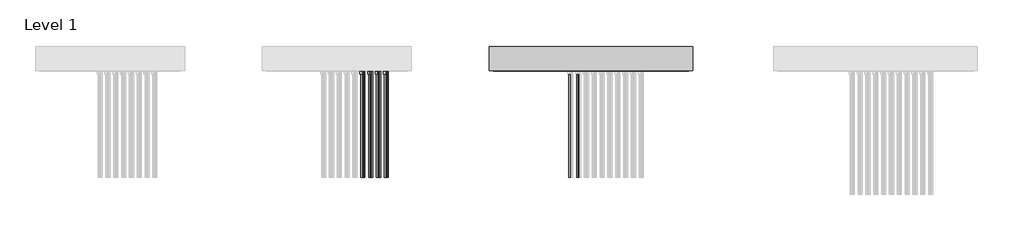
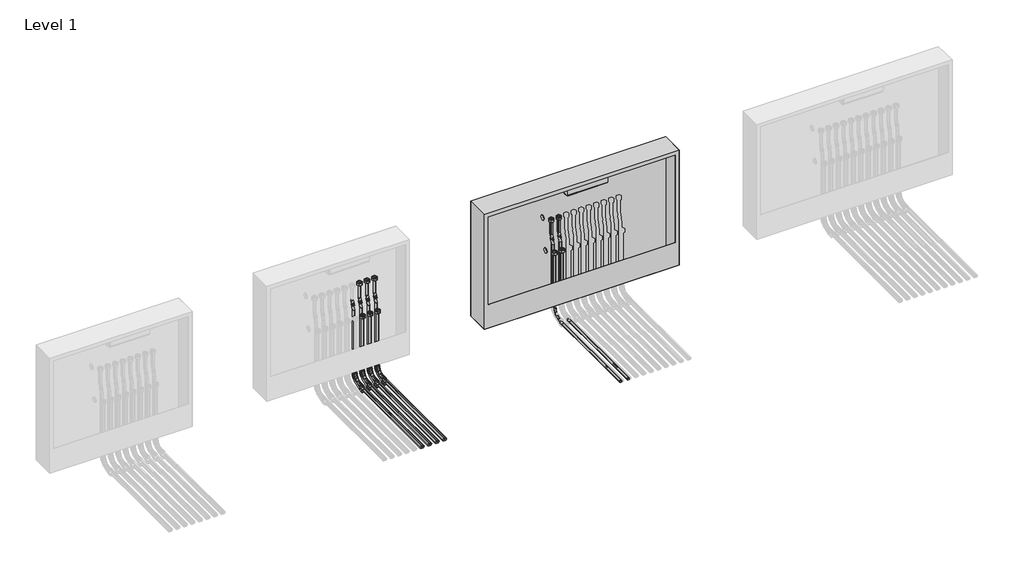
# One storey, part 9 of 15: 39 pipe fittings, 33 pipe segments, 1 proxy, 1 valve.
"""IFC4 building model written with IfcOpenShell, lengths in millimetres."""

from ifc_helpers import new_model, si_unit, point, frame, frame_2d, origin, place, context, project, spatial, circle_curve, trimmed, segment, composite_curve, outline, extrude, transform, mapped, element, save
from components import mechanical_equipment_387b3563, pipe_fitting_b05a7e06, pipe_fitting_27357a6d, pipe_fitting_daada113, pipe_fitting_3e503640, valve_75f531ea

model = new_model("IFC4")

# Units and contexts
model_context = context("Model", 3, world=origin())
ifc_project = project(units=[si_unit("LENGTHUNIT", "METRE", prefix="MILLI")], contexts=[model_context])

# Site, building, storey
site = spatial("IfcSite", under=ifc_project)
building = spatial("IfcBuilding", under=site)
storey = spatial("IfcBuildingStorey", under=building, Name="Level 1", Elevation=0.0)

# Proxy
placement = place(None, origin())
mechanical_equipment_shape = mechanical_equipment_387b3563(model_context)
element("IfcBuildingElementProxy", 1, Name="USYSTEMS_Контроллер UH-6 230В1 : Контроллер UH-6 230В 2", ObjectType="USYSTEMS_Контроллер UH-6 230В1 : Контроллер UH-6 230В 2", at=placement, inside=storey, context=model_context, shape_type="MappedRepresentation", body=[
    mapped(mechanical_equipment_shape, transform((13334.935481, 3891.4243288, 729.375), x_axis=(1.0, 0.0, 0.0), y_axis=(0.0, 1.0, 0.0), z_axis=(0.0, 0.0, 1.0))),
])

# Pipe fittings
pipe_fitting_shape = pipe_fitting_b05a7e06(model_context)
element("IfcPipeFitting", 2, ObjectType="USYSTEMS_УгловойФиксатор_Multi : Угловой фиксатор", at=placement, inside=storey, context=model_context, shape_type="MappedRepresentation", body=[
    mapped(pipe_fitting_shape, transform((11777.966047, 3819.5919288, -114.3211479), x_axis=(0.0, 0.0, -1.0), y_axis=(0.0, -1.0, 0.0), z_axis=(-1.0, 0.0, 0.0))),
])
element("IfcPipeFitting", 3, ObjectType="USYSTEMS_УгловойФиксатор_Multi : Угловой фиксатор", at=placement, inside=storey, context=model_context, shape_type="MappedRepresentation", body=[
    mapped(pipe_fitting_shape, transform((11788.0518035, 3855.5919362, -114.3211479), x_axis=(0.0, 0.0, -1.0), y_axis=(0.0, -1.0, 0.0), z_axis=(-1.0, 0.0, 0.0))),
])
element("IfcPipeFitting", 4, ObjectType="USYSTEMS_УгловойФиксатор_Multi : Угловой фиксатор", at=placement, inside=storey, context=model_context, shape_type="MappedRepresentation", body=[
    mapped(pipe_fitting_shape, transform((11827.966047, 3819.5918655, -114.3211479), x_axis=(0.0, 0.0, -1.0), y_axis=(0.0, -1.0, 0.0), z_axis=(-1.0, 0.0, 0.0))),
])
element("IfcPipeFitting", 5, ObjectType="USYSTEMS_УгловойФиксатор_Multi : Угловой фиксатор", at=placement, inside=storey, context=model_context, shape_type="MappedRepresentation", body=[
    mapped(pipe_fitting_shape, transform((11838.0518035, 3855.5915681, -114.3211479), x_axis=(0.0, 0.0, -1.0), y_axis=(0.0, -1.0, 0.0), z_axis=(-1.0, 0.0, 0.0))),
])
element("IfcPipeFitting", 6, ObjectType="USYSTEMS_УгловойФиксатор_Multi : Угловой фиксатор", at=placement, inside=storey, context=model_context, shape_type="MappedRepresentation", body=[
    mapped(pipe_fitting_shape, transform((11877.966047, 3819.5915681, -114.3211479), x_axis=(0.0, 0.0, -1.0), y_axis=(0.0, -1.0, 0.0), z_axis=(-1.0, 0.0, 0.0))),
])
element("IfcPipeFitting", 7, ObjectType="USYSTEMS_УгловойФиксатор_Multi : Угловой фиксатор", at=placement, inside=storey, context=model_context, shape_type="MappedRepresentation", body=[
    mapped(pipe_fitting_shape, transform((11888.0518035, 3855.5915681, -114.3211479), x_axis=(0.0, 0.0, -1.0), y_axis=(0.0, -1.0, 0.0), z_axis=(-1.0, 0.0, 0.0))),
])
element("IfcPipeFitting", 8, ObjectType="USYSTEMS_УгловойФиксатор_Multi : Угловой фиксатор", at=placement, inside=storey, context=model_context, shape_type="MappedRepresentation", body=[
    mapped(pipe_fitting_shape, transform((11927.966047, 3819.5915681, -114.3211479), x_axis=(0.0, 0.0, -1.0), y_axis=(0.0, -1.0, 0.0), z_axis=(-1.0, 0.0, 0.0))),
])
element("IfcPipeFitting", 9, ObjectType="USYSTEMS_УгловойФиксатор_Multi : Угловой фиксатор", at=placement, inside=storey, context=model_context, shape_type="MappedRepresentation", body=[
    mapped(pipe_fitting_shape, transform((11938.0518035, 3855.5915681, -114.3211479), x_axis=(0.0, 0.0, -1.0), y_axis=(0.0, -1.0, 0.0), z_axis=(-1.0, 0.0, 0.0))),
])
pipe_fitting_2_shape = pipe_fitting_27357a6d(model_context)
element("IfcPipeFitting", 10, ObjectType="USYSTEMS_Штуцер с внутренней резьбой_FlexX_PEX : 16x2,0 x 3/4\" ВР Евроконус", at=placement, inside=storey, context=model_context, shape_type="MappedRepresentation", body=[
    mapped(pipe_fitting_2_shape, transform((11827.966047, 3819.5920282, 328.3084133), x_axis=(0.0, 0.0, 1.0), y_axis=(0.0, 1.0, 0.0), z_axis=(-1.0, 0.0, 0.0))),
])
element("IfcPipeFitting", 11, ObjectType="USYSTEMS_Штуцер с внутренней резьбой_FlexX_PEX : 16x2,0 x 3/4\" ВР Евроконус", at=placement, inside=storey, context=model_context, shape_type="MappedRepresentation", body=[
    mapped(pipe_fitting_2_shape, transform((11827.966047, 3855.5920282, 538.3084133), x_axis=(0.0, 0.0, 1.0), y_axis=(0.0, 1.0, 0.0), z_axis=(-1.0, 0.0, 0.0))),
])
element("IfcPipeFitting", 12, ObjectType="USYSTEMS_Штуцер с внутренней резьбой_FlexX_PEX : 16x2,0 x 3/4\" ВР Евроконус", at=placement, inside=storey, context=model_context, shape_type="MappedRepresentation", body=[
    mapped(pipe_fitting_2_shape, transform((11877.966047, 3819.5920282, 328.3084133), x_axis=(0.0, 0.0, 1.0), y_axis=(0.0, 1.0, 0.0), z_axis=(-1.0, 0.0, 0.0))),
])
element("IfcPipeFitting", 13, ObjectType="USYSTEMS_Штуцер с внутренней резьбой_FlexX_PEX : 16x2,0 x 3/4\" ВР Евроконус", at=placement, inside=storey, context=model_context, shape_type="MappedRepresentation", body=[
    mapped(pipe_fitting_2_shape, transform((11877.966047, 3855.5920282, 538.3084133), x_axis=(0.0, 0.0, 1.0), y_axis=(0.0, 1.0, 0.0), z_axis=(-1.0, 0.0, 0.0))),
])
element("IfcPipeFitting", 14, ObjectType="USYSTEMS_Штуцер с внутренней резьбой_FlexX_PEX : 16x2,0 x 3/4\" ВР Евроконус", at=placement, inside=storey, context=model_context, shape_type="MappedRepresentation", body=[
    mapped(pipe_fitting_2_shape, transform((11927.966047, 3819.5920282, 328.3084133), x_axis=(0.0, 0.0, 1.0), y_axis=(0.0, 1.0, 0.0), z_axis=(-1.0, 0.0, 0.0))),
])
element("IfcPipeFitting", 15, ObjectType="USYSTEMS_Штуцер с внутренней резьбой_FlexX_PEX : 16x2,0 x 3/4\" ВР Евроконус", at=placement, inside=storey, context=model_context, shape_type="MappedRepresentation", body=[
    mapped(pipe_fitting_2_shape, transform((11927.966047, 3855.5920282, 538.3084133), x_axis=(0.0, 0.0, 1.0), y_axis=(0.0, 1.0, 0.0), z_axis=(-1.0, 0.0, 0.0))),
])
element("IfcPipeFitting", 16, ObjectType="USYSTEMS_Штуцер с внутренней резьбой_FlexX_PEX : 16x2,0 x 3/4\" ВР Евроконус", at=placement, inside=storey, context=model_context, shape_type="MappedRepresentation", body=[
    mapped(pipe_fitting_2_shape, transform((13156.541018, 3855.4872889, 538.3084133), x_axis=(0.0, 0.0, 1.0), y_axis=(0.0, 1.0, 0.0), z_axis=(-1.0, 0.0, 0.0))),
])
element("IfcPipeFitting", 17, ObjectType="USYSTEMS_Штуцер с внутренней резьбой_FlexX_PEX : 16x2,0 x 3/4\" ВР Евроконус", at=placement, inside=storey, context=model_context, shape_type="MappedRepresentation", body=[
    mapped(pipe_fitting_2_shape, transform((13156.541018, 3819.4872889, 328.3084133), x_axis=(0.0, 0.0, 1.0), y_axis=(0.0, 1.0, 0.0), z_axis=(-1.0, 0.0, 0.0))),
])
element("IfcPipeFitting", 18, ObjectType="USYSTEMS_Штуцер с внутренней резьбой_FlexX_PEX : 16x2,0 x 3/4\" ВР Евроконус", at=placement, inside=storey, context=model_context, shape_type="MappedRepresentation", body=[
    mapped(pipe_fitting_2_shape, transform((13106.541018, 3819.4872889, 328.3084133), x_axis=(0.0, 0.0, 1.0), y_axis=(0.0, 1.0, 0.0), z_axis=(-1.0, 0.0, 0.0))),
])
element("IfcPipeFitting", 19, ObjectType="USYSTEMS_Штуцер с внутренней резьбой_FlexX_PEX : 16x2,0 x 3/4\" ВР Евроконус", at=placement, inside=storey, context=model_context, shape_type="MappedRepresentation", body=[
    mapped(pipe_fitting_2_shape, transform((13106.541018, 3855.4872889, 538.3084133), x_axis=(0.0, 0.0, 1.0), y_axis=(0.0, 1.0, 0.0), z_axis=(-1.0, 0.0, 0.0))),
])
pipe_fitting_3_shape = pipe_fitting_daada113(model_context)
element("IfcPipeFitting", 20, ObjectType="USYSTEMS_Гнутая труба_Radi Pipe : PN 6 в бухтах", at=placement, inside=storey, context=model_context, shape_type="MappedRepresentation", body=[
    mapped(pipe_fitting_3_shape, transform((11777.966047, 3855.5918733, 417.3513211), x_axis=(0.0, 0.0, -1.0), y_axis=(1.0, 0.0, 0.0), z_axis=(0.0, -1.0, 0.0))),
])
element("IfcPipeFitting", 21, ObjectType="USYSTEMS_Гнутая труба_Radi Pipe : PN 6 в бухтах", at=placement, inside=storey, context=model_context, shape_type="MappedRepresentation", body=[
    mapped(pipe_fitting_3_shape, transform((11788.0518035, 3855.5919362, 391.0770272), x_axis=(0.3583679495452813, 0.0, -0.9335804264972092), y_axis=(-0.9335804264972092, 0.0, -0.3583679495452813), z_axis=(0.0, 1.0, 0.0))),
])
element("IfcPipeFitting", 22, ObjectType="USYSTEMS_Гнутая труба_Radi Pipe : PN 6 в бухтах", at=placement, inside=storey, context=model_context, shape_type="MappedRepresentation", body=[
    mapped(pipe_fitting_3_shape, transform((11827.966047, 3855.5912535, 417.3513211), x_axis=(0.0, 0.0, -1.0), y_axis=(1.0, 0.0, 0.0), z_axis=(0.0, -1.0, 0.0))),
])
element("IfcPipeFitting", 23, ObjectType="USYSTEMS_Гнутая труба_Radi Pipe : PN 6 в бухтах", at=placement, inside=storey, context=model_context, shape_type="MappedRepresentation", body=[
    mapped(pipe_fitting_3_shape, transform((11838.0518035, 3855.5915681, 391.0770272), x_axis=(0.3583679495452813, 0.0, -0.9335804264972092), y_axis=(-0.9335804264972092, 0.0, -0.3583679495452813), z_axis=(0.0, 1.0, 0.0))),
])
element("IfcPipeFitting", 24, ObjectType="USYSTEMS_Гнутая труба_Radi Pipe : PN 6 в бухтах", at=placement, inside=storey, context=model_context, shape_type="MappedRepresentation", body=[
    mapped(pipe_fitting_3_shape, transform((11877.966047, 3855.5912535, 417.3513211), x_axis=(0.0, 0.0, -1.0), y_axis=(1.0, 0.0, 0.0), z_axis=(0.0, -1.0, 0.0))),
])
element("IfcPipeFitting", 25, ObjectType="USYSTEMS_Гнутая труба_Radi Pipe : PN 6 в бухтах", at=placement, inside=storey, context=model_context, shape_type="MappedRepresentation", body=[
    mapped(pipe_fitting_3_shape, transform((11888.0518035, 3855.5915681, 391.0770272), x_axis=(0.3583679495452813, 0.0, -0.9335804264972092), y_axis=(-0.9335804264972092, 0.0, -0.3583679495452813), z_axis=(0.0, 1.0, 0.0))),
])
element("IfcPipeFitting", 26, ObjectType="USYSTEMS_Гнутая труба_Radi Pipe : PN 6 в бухтах", at=placement, inside=storey, context=model_context, shape_type="MappedRepresentation", body=[
    mapped(pipe_fitting_3_shape, transform((11927.966047, 3855.5912535, 417.3513211), x_axis=(0.0, 0.0, -1.0), y_axis=(1.0, 0.0, 0.0), z_axis=(0.0, -1.0, 0.0))),
])
element("IfcPipeFitting", 27, ObjectType="USYSTEMS_Гнутая труба_Radi Pipe : PN 6 в бухтах", at=placement, inside=storey, context=model_context, shape_type="MappedRepresentation", body=[
    mapped(pipe_fitting_3_shape, transform((11938.0518035, 3855.5915681, 391.0770272), x_axis=(0.3583679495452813, 0.0, -0.9335804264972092), y_axis=(-0.9335804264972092, 0.0, -0.3583679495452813), z_axis=(0.0, 1.0, 0.0))),
])
pipe_fitting_4_shape = pipe_fitting_3e503640(model_context)
element("IfcPipeFitting", 28, ObjectType="USYSTEMS_Гнутая труба_Radi Pipe : PN 6 в бухтах_С фиксатором", at=placement, inside=storey, context=model_context, shape_type="MappedRepresentation", body=[
    mapped(pipe_fitting_4_shape, transform((11777.966047, 3819.5919288, -114.3211479), x_axis=(0.0, 0.0, -1.0), y_axis=(0.0, -1.0, 0.0), z_axis=(-1.0, 0.0, 0.0))),
])
element("IfcPipeFitting", 29, ObjectType="USYSTEMS_Гнутая труба_Radi Pipe : PN 6 в бухтах_С фиксатором", at=placement, inside=storey, context=model_context, shape_type="MappedRepresentation", body=[
    mapped(pipe_fitting_4_shape, transform((11788.0518035, 3855.5919362, -114.3211479), x_axis=(0.0, 0.0, -1.0), y_axis=(0.0, -1.0, 0.0), z_axis=(-1.0, 0.0, 0.0))),
])
element("IfcPipeFitting", 30, ObjectType="USYSTEMS_Гнутая труба_Radi Pipe : PN 6 в бухтах_С фиксатором", at=placement, inside=storey, context=model_context, shape_type="MappedRepresentation", body=[
    mapped(pipe_fitting_4_shape, transform((11827.966047, 3819.5918655, -114.3211479), x_axis=(0.0, 0.0, -1.0), y_axis=(0.0, -1.0, 0.0), z_axis=(-1.0, 0.0, 0.0))),
])
element("IfcPipeFitting", 31, ObjectType="USYSTEMS_Гнутая труба_Radi Pipe : PN 6 в бухтах_С фиксатором", at=placement, inside=storey, context=model_context, shape_type="MappedRepresentation", body=[
    mapped(pipe_fitting_4_shape, transform((11838.0518035, 3855.5915681, -114.3211479), x_axis=(0.0, 0.0, -1.0), y_axis=(0.0, -1.0, 0.0), z_axis=(-1.0, 0.0, 0.0))),
])
element("IfcPipeFitting", 32, ObjectType="USYSTEMS_Гнутая труба_Radi Pipe : PN 6 в бухтах_С фиксатором", at=placement, inside=storey, context=model_context, shape_type="MappedRepresentation", body=[
    mapped(pipe_fitting_4_shape, transform((11877.966047, 3819.5915681, -114.3211479), x_axis=(0.0, 0.0, -1.0), y_axis=(0.0, -1.0, 0.0), z_axis=(-1.0, 0.0, 0.0))),
])
element("IfcPipeFitting", 33, ObjectType="USYSTEMS_Гнутая труба_Radi Pipe : PN 6 в бухтах_С фиксатором", at=placement, inside=storey, context=model_context, shape_type="MappedRepresentation", body=[
    mapped(pipe_fitting_4_shape, transform((11888.0518035, 3855.5915681, -114.3211479), x_axis=(0.0, 0.0, -1.0), y_axis=(0.0, -1.0, 0.0), z_axis=(-1.0, 0.0, 0.0))),
])
element("IfcPipeFitting", 34, ObjectType="USYSTEMS_Гнутая труба_Radi Pipe : PN 6 в бухтах_С фиксатором", at=placement, inside=storey, context=model_context, shape_type="MappedRepresentation", body=[
    mapped(pipe_fitting_4_shape, transform((11927.966047, 3819.5915681, -114.3211479), x_axis=(0.0, 0.0, -1.0), y_axis=(0.0, -1.0, 0.0), z_axis=(-1.0, 0.0, 0.0))),
])
element("IfcPipeFitting", 35, ObjectType="USYSTEMS_Гнутая труба_Radi Pipe : PN 6 в бухтах_С фиксатором", at=placement, inside=storey, context=model_context, shape_type="MappedRepresentation", body=[
    mapped(pipe_fitting_4_shape, transform((11938.0518035, 3855.5915681, -114.3211479), x_axis=(0.0, 0.0, -1.0), y_axis=(0.0, -1.0, 0.0), z_axis=(-1.0, 0.0, 0.0))),
])
element("IfcPipeFitting", 36, ObjectType="USYSTEMS_Гнутая труба_Radi Pipe : PN 6 в бухтах", at=placement, inside=storey, context=model_context, shape_type="MappedRepresentation", body=[
    mapped(pipe_fitting_3_shape, transform((13106.541018, 3855.4865289, 414.5388211), x_axis=(0.0, 0.0, -1.0), y_axis=(1.0, 0.0, 0.0), z_axis=(0.0, -1.0, 0.0))),
])
element("IfcPipeFitting", 37, ObjectType="USYSTEMS_Гнутая труба_Radi Pipe : PN 6 в бухтах", at=placement, inside=storey, context=model_context, shape_type="MappedRepresentation", body=[
    mapped(pipe_fitting_3_shape, transform((13116.6267744, 3855.4868288, 388.2645272), x_axis=(0.3583679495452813, 0.0, -0.9335804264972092), y_axis=(-0.9335804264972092, 0.0, -0.3583679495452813), z_axis=(0.0, 1.0, 0.0))),
])
element("IfcPipeFitting", 38, ObjectType="USYSTEMS_Гнутая труба_Radi Pipe : PN 6 в бухтах", at=placement, inside=storey, context=model_context, shape_type="MappedRepresentation", body=[
    mapped(pipe_fitting_3_shape, transform((13156.541018, 3855.4865291, 414.5122189), x_axis=(0.0, 0.0, -1.0), y_axis=(1.0, 0.0, 0.0), z_axis=(0.0, -1.0, 0.0))),
])
element("IfcPipeFitting", 39, ObjectType="USYSTEMS_Гнутая труба_Radi Pipe : PN 6 в бухтах", at=placement, inside=storey, context=model_context, shape_type="MappedRepresentation", body=[
    mapped(pipe_fitting_3_shape, transform((13166.6267744, 3855.4868288, 388.237925), x_axis=(0.3583679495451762, 0.0, -0.9335804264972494), y_axis=(-0.9335804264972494, 0.0, -0.3583679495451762), z_axis=(0.0, 1.0, 0.0))),
])
element("IfcPipeFitting", 40, ObjectType="USYSTEMS_Гнутая труба_Radi Pipe : PN 6 в бухтах_С фиксатором", at=placement, inside=storey, context=model_context, shape_type="MappedRepresentation", body=[
    mapped(pipe_fitting_4_shape, transform((13106.541018, 3819.4868288, -114.3211479), x_axis=(0.0, 0.0, -1.0), y_axis=(0.0, -1.0, 0.0), z_axis=(-1.0, 0.0, 0.0))),
])

# Pipe segments
element("IfcPipeSegment", 41, ObjectType="USYSTEMS труба Radi Pipe белая PN6", at=placement, inside=storey, context=model_context, shape_type="SweptSolid", body=[
    extrude(outline(composite_curve([segment(trimmed(circle_curve(frame_2d((11788.0518035, 3855.5919362)), 8.0), [point((11796.0518035, 3855.5919362))], [point((11788.0518035, 3847.5919362))], False, "CARTESIAN"), True, "CONTINUOUS"), segment(trimmed(circle_curve(frame_2d((11788.0518035, 3855.5919362)), 8.0), [point((11788.0518035, 3847.5919362))], [point((11780.0518035, 3855.5919362))], False, "CARTESIAN"), True, "CONTINUOUS"), segment(trimmed(circle_curve(frame_2d((11788.0518035, 3855.5919362)), 8.0), [point((11780.0518035, 3855.5919362))], [point((11788.0518035, 3863.5919362))], False, "CARTESIAN"), True, "CONTINUOUS"), segment(trimmed(circle_curve(frame_2d((11788.0518035, 3855.5919362)), 8.0), [point((11788.0518035, 3863.5919362))], [point((11796.0518035, 3855.5919362))], False, "CARTESIAN"), True, "CONTINUOUS")], self_intersect=False)), frame((0.0, 0.0, -43.3211479), z_axis=(0.0, 0.0, 1.0), x_axis=(1.0, 0.0, 0.0)), (0.0, 0.0, 1.0), 410.6747774),
])
element("IfcPipeSegment", 42, ObjectType="USYSTEMS труба Radi Pipe белая PN6", at=placement, inside=storey, context=model_context, shape_type="SweptSolid", body=[
    extrude(outline(composite_curve([segment(trimmed(circle_curve(frame_2d((-114.3211479, 11777.966047)), 8.0), [point((-114.3211479, 11769.966047))], [point((-122.3211479, 11777.966047))], False, "CARTESIAN"), True, "CONTINUOUS"), segment(trimmed(circle_curve(frame_2d((-114.3211479, 11777.966047)), 8.0), [point((-122.3211479, 11777.966047))], [point((-114.3211479, 11785.966047))], False, "CARTESIAN"), True, "CONTINUOUS"), segment(trimmed(circle_curve(frame_2d((-114.3211479, 11777.966047)), 8.0), [point((-114.3211479, 11785.966047))], [point((-106.3211479, 11777.966047))], False, "CARTESIAN"), True, "CONTINUOUS"), segment(trimmed(circle_curve(frame_2d((-114.3211479, 11777.966047)), 8.0), [point((-106.3211479, 11777.966047))], [point((-114.3211479, 11769.966047))], False, "CARTESIAN"), True, "CONTINUOUS")], self_intersect=False)), frame((0.0, 3054.7207207, 0.0), z_axis=(0.0, 1.0, 0.0), x_axis=(0.0, 0.0, 1.0)), (0.0, 0.0, 1.0), 693.8712081),
])
element("IfcPipeSegment", 43, ObjectType="USYSTEMS труба Radi Pipe белая PN6", at=placement, inside=storey, context=model_context, shape_type="SweptSolid", body=[
    extrude(outline(composite_curve([segment(trimmed(circle_curve(frame_2d((-114.3211479, 11788.0518035)), 8.0), [point((-114.3211479, 11780.0518035))], [point((-122.3211479, 11788.0518035))], False, "CARTESIAN"), True, "CONTINUOUS"), segment(trimmed(circle_curve(frame_2d((-114.3211479, 11788.0518035)), 8.0), [point((-122.3211479, 11788.0518035))], [point((-114.3211479, 11796.0518035))], False, "CARTESIAN"), True, "CONTINUOUS"), segment(trimmed(circle_curve(frame_2d((-114.3211479, 11788.0518035)), 8.0), [point((-114.3211479, 11796.0518035))], [point((-106.3211479, 11788.0518035))], False, "CARTESIAN"), True, "CONTINUOUS"), segment(trimmed(circle_curve(frame_2d((-114.3211479, 11788.0518035)), 8.0), [point((-106.3211479, 11788.0518035))], [point((-114.3211479, 11780.0518035))], False, "CARTESIAN"), True, "CONTINUOUS")], self_intersect=False)), frame((0.0, 3054.7207207, 0.0), z_axis=(0.0, 1.0, 0.0), x_axis=(0.0, 0.0, 1.0)), (0.0, 0.0, 1.0), 729.8712155),
])
element("IfcPipeSegment", 44, ObjectType="USYSTEMS труба Radi Pipe белая PN6", at=placement, inside=storey, context=model_context, shape_type="SweptSolid", body=[
    extrude(outline(composite_curve([segment(trimmed(circle_curve(frame_2d((0.0, -8.0)), 8.0), [point((-8.0, -8.0))], [point((0.0, 0.0))], False, "CARTESIAN"), True, "CONTINUOUS"), segment(trimmed(circle_curve(frame_2d((0.0, -8.0)), 8.0), [point((0.0, 0.0))], [point((8.0, -8.0))], False, "CARTESIAN"), True, "CONTINUOUS"), segment(trimmed(circle_curve(frame_2d((0.0, -8.0)), 8.0), [point((8.0, -8.0))], [point((0.0, -16.0))], False, "CARTESIAN"), True, "CONTINUOUS"), segment(trimmed(circle_curve(frame_2d((0.0, -8.0)), 8.0), [point((0.0, -16.0))], [point((-8.0, -8.0))], False, "CARTESIAN"), True, "CONTINUOUS")], self_intersect=False)), frame((11827.966047, 3811.5918655, -43.3211444), z_axis=(0.0, 4.388663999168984e-07, 0.9999999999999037), x_axis=(-1.0, 0.0, 0.0)), (0.0, 0.0, 1.0), 370.6295612),
])
element("IfcPipeSegment", 45, ObjectType="USYSTEMS труба Radi Pipe белая PN6", at=placement, inside=storey, context=model_context, shape_type="SweptSolid", body=[
    extrude(outline(composite_curve([segment(trimmed(circle_curve(frame_2d((0.0, -8.0)), 8.0), [point((-8.0, -8.0))], [point((0.0, 0.0))], False, "CARTESIAN"), True, "CONTINUOUS"), segment(trimmed(circle_curve(frame_2d((0.0, -8.0)), 8.0), [point((0.0, 0.0))], [point((8.0, -8.0))], False, "CARTESIAN"), True, "CONTINUOUS"), segment(trimmed(circle_curve(frame_2d((0.0, -8.0)), 8.0), [point((8.0, -8.0))], [point((0.0, -16.0))], False, "CARTESIAN"), True, "CONTINUOUS"), segment(trimmed(circle_curve(frame_2d((0.0, -8.0)), 8.0), [point((0.0, -16.0))], [point((-8.0, -8.0))], False, "CARTESIAN"), True, "CONTINUOUS")], self_intersect=False)), frame((11827.966047, 3847.5912535, 441.0747833), z_axis=(0.0, 8.050352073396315e-06, 0.9999999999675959), x_axis=(-1.0, 0.0, 0.0)), (0.0, 0.0, 1.0), 96.2336944),
])
element("IfcPipeSegment", 46, ObjectType="USYSTEMS труба Radi Pipe белая PN6", at=placement, inside=storey, context=model_context, shape_type="SweptSolid", body=[
    extrude(outline(composite_curve([segment(trimmed(circle_curve(frame_2d((0.0, 8.0)), 8.0), [point((0.0003897, 16.0))], [point((8.0, 7.9996104))], False, "CARTESIAN"), True, "CONTINUOUS"), segment(trimmed(circle_curve(frame_2d((0.0, 8.0)), 8.0), [point((8.0, 7.9996104))], [point((-0.0003897, 0.0))], False, "CARTESIAN"), True, "CONTINUOUS"), segment(trimmed(circle_curve(frame_2d((0.0, 8.0)), 8.0), [point((-0.0003897, 0.0))], [point((-8.0, 8.0003896))], False, "CARTESIAN"), True, "CONTINUOUS"), segment(trimmed(circle_curve(frame_2d((0.0, 8.0)), 8.0), [point((-8.0, 8.0003896))], [point((0.0003897, 16.0))], False, "CARTESIAN"), True, "CONTINUOUS")], self_intersect=False)), frame((11836.4677524, 3847.5912535, 395.203761), z_axis=(-0.35836794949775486, 1.6296675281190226e-05, 0.9335804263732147), x_axis=(0.9335804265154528, 6.255707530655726e-06, 0.3583679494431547)), (0.0, 0.0, 1.0), 19.3032171),
])
element("IfcPipeSegment", 47, ObjectType="USYSTEMS труба Radi Pipe белая PN6", at=placement, inside=storey, context=model_context, shape_type="SweptSolid", body=[
    extrude(outline(composite_curve([segment(trimmed(circle_curve(frame_2d((11838.0518035, 3855.5915681)), 8.0), [point((11846.0518035, 3855.5915681))], [point((11838.0518035, 3847.5915681))], False, "CARTESIAN"), True, "CONTINUOUS"), segment(trimmed(circle_curve(frame_2d((11838.0518035, 3855.5915681)), 8.0), [point((11838.0518035, 3847.5915681))], [point((11830.0518035, 3855.5915681))], False, "CARTESIAN"), True, "CONTINUOUS"), segment(trimmed(circle_curve(frame_2d((11838.0518035, 3855.5915681)), 8.0), [point((11830.0518035, 3855.5915681))], [point((11838.0518035, 3863.5915681))], False, "CARTESIAN"), True, "CONTINUOUS"), segment(trimmed(circle_curve(frame_2d((11838.0518035, 3855.5915681)), 8.0), [point((11838.0518035, 3863.5915681))], [point((11846.0518035, 3855.5915681))], False, "CARTESIAN"), True, "CONTINUOUS")], self_intersect=False)), frame((0.0, 0.0, -43.3211479), z_axis=(0.0, 0.0, 1.0), x_axis=(1.0, 0.0, 0.0)), (0.0, 0.0, 1.0), 410.6747774),
])
element("IfcPipeSegment", 48, ObjectType="USYSTEMS труба Radi Pipe белая PN6", at=placement, inside=storey, context=model_context, shape_type="SweptSolid", body=[
    extrude(outline(composite_curve([segment(trimmed(circle_curve(frame_2d((-114.3211479, 11827.966047)), 8.0), [point((-114.3211479, 11819.966047))], [point((-122.3211479, 11827.966047))], False, "CARTESIAN"), True, "CONTINUOUS"), segment(trimmed(circle_curve(frame_2d((-114.3211479, 11827.966047)), 8.0), [point((-122.3211479, 11827.966047))], [point((-114.3211479, 11835.966047))], False, "CARTESIAN"), True, "CONTINUOUS"), segment(trimmed(circle_curve(frame_2d((-114.3211479, 11827.966047)), 8.0), [point((-114.3211479, 11835.966047))], [point((-106.3211479, 11827.966047))], False, "CARTESIAN"), True, "CONTINUOUS"), segment(trimmed(circle_curve(frame_2d((-114.3211479, 11827.966047)), 8.0), [point((-106.3211479, 11827.966047))], [point((-114.3211479, 11819.966047))], False, "CARTESIAN"), True, "CONTINUOUS")], self_intersect=False)), frame((0.0, 3054.7207207, 0.0), z_axis=(0.0, 1.0, 0.0), x_axis=(0.0, 0.0, 1.0)), (0.0, 0.0, 1.0), 693.8711448),
])
element("IfcPipeSegment", 49, ObjectType="USYSTEMS труба Radi Pipe белая PN6", at=placement, inside=storey, context=model_context, shape_type="SweptSolid", body=[
    extrude(outline(composite_curve([segment(trimmed(circle_curve(frame_2d((-114.3211479, 11838.0518035)), 8.0), [point((-114.3211479, 11830.0518035))], [point((-122.3211479, 11838.0518035))], False, "CARTESIAN"), True, "CONTINUOUS"), segment(trimmed(circle_curve(frame_2d((-114.3211479, 11838.0518035)), 8.0), [point((-122.3211479, 11838.0518035))], [point((-114.3211479, 11846.0518035))], False, "CARTESIAN"), True, "CONTINUOUS"), segment(trimmed(circle_curve(frame_2d((-114.3211479, 11838.0518035)), 8.0), [point((-114.3211479, 11846.0518035))], [point((-106.3211479, 11838.0518035))], False, "CARTESIAN"), True, "CONTINUOUS"), segment(trimmed(circle_curve(frame_2d((-114.3211479, 11838.0518035)), 8.0), [point((-106.3211479, 11838.0518035))], [point((-114.3211479, 11830.0518035))], False, "CARTESIAN"), True, "CONTINUOUS")], self_intersect=False)), frame((0.0, 3054.7207207, 0.0), z_axis=(0.0, 1.0, 0.0), x_axis=(0.0, 0.0, 1.0)), (0.0, 0.0, 1.0), 729.8708473),
])
element("IfcPipeSegment", 50, ObjectType="USYSTEMS труба Radi Pipe белая PN6", at=placement, inside=storey, context=model_context, shape_type="SweptSolid", body=[
    extrude(outline(composite_curve([segment(trimmed(circle_curve(frame_2d((0.0, -8.0)), 8.0), [point((-8.0, -8.0))], [point((0.0, 0.0))], False, "CARTESIAN"), True, "CONTINUOUS"), segment(trimmed(circle_curve(frame_2d((0.0, -8.0)), 8.0), [point((0.0, 0.0))], [point((8.0, -8.0))], False, "CARTESIAN"), True, "CONTINUOUS"), segment(trimmed(circle_curve(frame_2d((0.0, -8.0)), 8.0), [point((8.0, -8.0))], [point((0.0, -16.0))], False, "CARTESIAN"), True, "CONTINUOUS"), segment(trimmed(circle_curve(frame_2d((0.0, -8.0)), 8.0), [point((0.0, -16.0))], [point((-8.0, -8.0))], False, "CARTESIAN"), True, "CONTINUOUS")], self_intersect=False)), frame((11877.966047, 3811.5915681, -43.321138), z_axis=(0.0, 1.2415007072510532e-06, 0.9999999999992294), x_axis=(-1.0, 0.0, 0.0)), (0.0, 0.0, 1.0), 370.6295612),
])
element("IfcPipeSegment", 51, ObjectType="USYSTEMS труба Radi Pipe белая PN6", at=placement, inside=storey, context=model_context, shape_type="SweptSolid", body=[
    extrude(outline(composite_curve([segment(trimmed(circle_curve(frame_2d((0.0, -8.0)), 8.0), [point((-8.0, -8.0))], [point((0.0, 0.0))], False, "CARTESIAN"), True, "CONTINUOUS"), segment(trimmed(circle_curve(frame_2d((0.0, -8.0)), 8.0), [point((0.0, 0.0))], [point((8.0, -8.0))], False, "CARTESIAN"), True, "CONTINUOUS"), segment(trimmed(circle_curve(frame_2d((0.0, -8.0)), 8.0), [point((8.0, -8.0))], [point((0.0, -16.0))], False, "CARTESIAN"), True, "CONTINUOUS"), segment(trimmed(circle_curve(frame_2d((0.0, -8.0)), 8.0), [point((0.0, -16.0))], [point((-8.0, -8.0))], False, "CARTESIAN"), True, "CONTINUOUS")], self_intersect=False)), frame((11877.966047, 3847.5912535, 441.0747833), z_axis=(0.0, 8.050352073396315e-06, 0.9999999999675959), x_axis=(-1.0, 0.0, 0.0)), (0.0, 0.0, 1.0), 96.2336944),
])
element("IfcPipeSegment", 52, ObjectType="USYSTEMS труба Radi Pipe белая PN6", at=placement, inside=storey, context=model_context, shape_type="SweptSolid", body=[
    extrude(outline(composite_curve([segment(trimmed(circle_curve(frame_2d((0.0, 8.0)), 8.0), [point((0.0003897, 16.0))], [point((8.0, 7.9996104))], False, "CARTESIAN"), True, "CONTINUOUS"), segment(trimmed(circle_curve(frame_2d((0.0, 8.0)), 8.0), [point((8.0, 7.9996104))], [point((-0.0003897, 0.0))], False, "CARTESIAN"), True, "CONTINUOUS"), segment(trimmed(circle_curve(frame_2d((0.0, 8.0)), 8.0), [point((-0.0003897, 0.0))], [point((-8.0, 8.0003896))], False, "CARTESIAN"), True, "CONTINUOUS"), segment(trimmed(circle_curve(frame_2d((0.0, 8.0)), 8.0), [point((-8.0, 8.0003896))], [point((0.0003897, 16.0))], False, "CARTESIAN"), True, "CONTINUOUS")], self_intersect=False)), frame((11886.4677524, 3847.5912535, 395.203761), z_axis=(-0.3583679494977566, 1.6296675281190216e-05, 0.933580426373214), x_axis=(0.9335804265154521, 6.255707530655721e-06, 0.3583679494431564)), (0.0, 0.0, 1.0), 19.3032171),
])
element("IfcPipeSegment", 53, ObjectType="USYSTEMS труба Radi Pipe белая PN6", at=placement, inside=storey, context=model_context, shape_type="SweptSolid", body=[
    extrude(outline(composite_curve([segment(trimmed(circle_curve(frame_2d((11888.0518035, 3855.5915681)), 8.0), [point((11896.0518035, 3855.5915681))], [point((11888.0518035, 3847.5915681))], False, "CARTESIAN"), True, "CONTINUOUS"), segment(trimmed(circle_curve(frame_2d((11888.0518035, 3855.5915681)), 8.0), [point((11888.0518035, 3847.5915681))], [point((11880.0518035, 3855.5915681))], False, "CARTESIAN"), True, "CONTINUOUS"), segment(trimmed(circle_curve(frame_2d((11888.0518035, 3855.5915681)), 8.0), [point((11880.0518035, 3855.5915681))], [point((11888.0518035, 3863.5915681))], False, "CARTESIAN"), True, "CONTINUOUS"), segment(trimmed(circle_curve(frame_2d((11888.0518035, 3855.5915681)), 8.0), [point((11888.0518035, 3863.5915681))], [point((11896.0518035, 3855.5915681))], False, "CARTESIAN"), True, "CONTINUOUS")], self_intersect=False)), frame((0.0, 0.0, -43.3211479), z_axis=(0.0, 0.0, 1.0), x_axis=(1.0, 0.0, 0.0)), (0.0, 0.0, 1.0), 410.6747774),
])
element("IfcPipeSegment", 54, ObjectType="USYSTEMS труба Radi Pipe белая PN6", at=placement, inside=storey, context=model_context, shape_type="SweptSolid", body=[
    extrude(outline(composite_curve([segment(trimmed(circle_curve(frame_2d((-114.3211479, 11877.966047)), 8.0), [point((-114.3211479, 11869.966047))], [point((-122.3211479, 11877.966047))], False, "CARTESIAN"), True, "CONTINUOUS"), segment(trimmed(circle_curve(frame_2d((-114.3211479, 11877.966047)), 8.0), [point((-122.3211479, 11877.966047))], [point((-114.3211479, 11885.966047))], False, "CARTESIAN"), True, "CONTINUOUS"), segment(trimmed(circle_curve(frame_2d((-114.3211479, 11877.966047)), 8.0), [point((-114.3211479, 11885.966047))], [point((-106.3211479, 11877.966047))], False, "CARTESIAN"), True, "CONTINUOUS"), segment(trimmed(circle_curve(frame_2d((-114.3211479, 11877.966047)), 8.0), [point((-106.3211479, 11877.966047))], [point((-114.3211479, 11869.966047))], False, "CARTESIAN"), True, "CONTINUOUS")], self_intersect=False)), frame((0.0, 3054.7207207, 0.0), z_axis=(0.0, 1.0, 0.0), x_axis=(0.0, 0.0, 1.0)), (0.0, 0.0, 1.0), 693.8708473),
])
element("IfcPipeSegment", 55, ObjectType="USYSTEMS труба Radi Pipe белая PN6", at=placement, inside=storey, context=model_context, shape_type="SweptSolid", body=[
    extrude(outline(composite_curve([segment(trimmed(circle_curve(frame_2d((-114.3211479, 11888.0518035)), 8.0), [point((-114.3211479, 11880.0518035))], [point((-122.3211479, 11888.0518035))], False, "CARTESIAN"), True, "CONTINUOUS"), segment(trimmed(circle_curve(frame_2d((-114.3211479, 11888.0518035)), 8.0), [point((-122.3211479, 11888.0518035))], [point((-114.3211479, 11896.0518035))], False, "CARTESIAN"), True, "CONTINUOUS"), segment(trimmed(circle_curve(frame_2d((-114.3211479, 11888.0518035)), 8.0), [point((-114.3211479, 11896.0518035))], [point((-106.3211479, 11888.0518035))], False, "CARTESIAN"), True, "CONTINUOUS"), segment(trimmed(circle_curve(frame_2d((-114.3211479, 11888.0518035)), 8.0), [point((-106.3211479, 11888.0518035))], [point((-114.3211479, 11880.0518035))], False, "CARTESIAN"), True, "CONTINUOUS")], self_intersect=False)), frame((0.0, 3054.7207207, 0.0), z_axis=(0.0, 1.0, 0.0), x_axis=(0.0, 0.0, 1.0)), (0.0, 0.0, 1.0), 729.8708473),
])
element("IfcPipeSegment", 56, ObjectType="USYSTEMS труба Radi Pipe белая PN6", at=placement, inside=storey, context=model_context, shape_type="SweptSolid", body=[
    extrude(outline(composite_curve([segment(trimmed(circle_curve(frame_2d((0.0, -8.0)), 8.0), [point((-8.0, -8.0))], [point((0.0, 0.0))], False, "CARTESIAN"), True, "CONTINUOUS"), segment(trimmed(circle_curve(frame_2d((0.0, -8.0)), 8.0), [point((0.0, 0.0))], [point((8.0, -8.0))], False, "CARTESIAN"), True, "CONTINUOUS"), segment(trimmed(circle_curve(frame_2d((0.0, -8.0)), 8.0), [point((8.0, -8.0))], [point((0.0, -16.0))], False, "CARTESIAN"), True, "CONTINUOUS"), segment(trimmed(circle_curve(frame_2d((0.0, -8.0)), 8.0), [point((0.0, -16.0))], [point((-8.0, -8.0))], False, "CARTESIAN"), True, "CONTINUOUS")], self_intersect=False)), frame((11927.966047, 3811.5915681, -43.321138), z_axis=(0.0, 1.2415007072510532e-06, 0.9999999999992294), x_axis=(-1.0, 0.0, 0.0)), (0.0, 0.0, 1.0), 370.6295612),
])
element("IfcPipeSegment", 57, ObjectType="USYSTEMS труба Radi Pipe белая PN6", at=placement, inside=storey, context=model_context, shape_type="SweptSolid", body=[
    extrude(outline(composite_curve([segment(trimmed(circle_curve(frame_2d((0.0, -8.0)), 8.0), [point((-8.0, -8.0))], [point((0.0, 0.0))], False, "CARTESIAN"), True, "CONTINUOUS"), segment(trimmed(circle_curve(frame_2d((0.0, -8.0)), 8.0), [point((0.0, 0.0))], [point((8.0, -8.0))], False, "CARTESIAN"), True, "CONTINUOUS"), segment(trimmed(circle_curve(frame_2d((0.0, -8.0)), 8.0), [point((8.0, -8.0))], [point((0.0, -16.0))], False, "CARTESIAN"), True, "CONTINUOUS"), segment(trimmed(circle_curve(frame_2d((0.0, -8.0)), 8.0), [point((0.0, -16.0))], [point((-8.0, -8.0))], False, "CARTESIAN"), True, "CONTINUOUS")], self_intersect=False)), frame((11927.966047, 3847.5912535, 441.0747833), z_axis=(0.0, 8.050352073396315e-06, 0.9999999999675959), x_axis=(-1.0, 0.0, 0.0)), (0.0, 0.0, 1.0), 96.2336944),
])
element("IfcPipeSegment", 58, ObjectType="USYSTEMS труба Radi Pipe белая PN6", at=placement, inside=storey, context=model_context, shape_type="SweptSolid", body=[
    extrude(outline(composite_curve([segment(trimmed(circle_curve(frame_2d((0.0, 8.0)), 8.0), [point((0.0003897, 16.0))], [point((8.0, 7.9996104))], False, "CARTESIAN"), True, "CONTINUOUS"), segment(trimmed(circle_curve(frame_2d((0.0, 8.0)), 8.0), [point((8.0, 7.9996104))], [point((-0.0003897, 0.0))], False, "CARTESIAN"), True, "CONTINUOUS"), segment(trimmed(circle_curve(frame_2d((0.0, 8.0)), 8.0), [point((-0.0003897, 0.0))], [point((-8.0, 8.0003896))], False, "CARTESIAN"), True, "CONTINUOUS"), segment(trimmed(circle_curve(frame_2d((0.0, 8.0)), 8.0), [point((-8.0, 8.0003896))], [point((0.0003897, 16.0))], False, "CARTESIAN"), True, "CONTINUOUS")], self_intersect=False)), frame((11936.4677524, 3847.5912535, 395.203761), z_axis=(-0.358367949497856, 1.6296675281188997e-05, 0.9335804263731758), x_axis=(0.933580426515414, 6.255707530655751e-06, 0.35836794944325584)), (0.0, 0.0, 1.0), 19.3032171),
])
element("IfcPipeSegment", 59, ObjectType="USYSTEMS труба Radi Pipe белая PN6", at=placement, inside=storey, context=model_context, shape_type="SweptSolid", body=[
    extrude(outline(composite_curve([segment(trimmed(circle_curve(frame_2d((11938.0518035, 3855.5915681)), 8.0), [point((11946.0518035, 3855.5915681))], [point((11938.0518035, 3847.5915681))], False, "CARTESIAN"), True, "CONTINUOUS"), segment(trimmed(circle_curve(frame_2d((11938.0518035, 3855.5915681)), 8.0), [point((11938.0518035, 3847.5915681))], [point((11930.0518035, 3855.5915681))], False, "CARTESIAN"), True, "CONTINUOUS"), segment(trimmed(circle_curve(frame_2d((11938.0518035, 3855.5915681)), 8.0), [point((11930.0518035, 3855.5915681))], [point((11938.0518035, 3863.5915681))], False, "CARTESIAN"), True, "CONTINUOUS"), segment(trimmed(circle_curve(frame_2d((11938.0518035, 3855.5915681)), 8.0), [point((11938.0518035, 3863.5915681))], [point((11946.0518035, 3855.5915681))], False, "CARTESIAN"), True, "CONTINUOUS")], self_intersect=False)), frame((0.0, 0.0, -43.3211479), z_axis=(0.0, 0.0, 1.0), x_axis=(1.0, 0.0, 0.0)), (0.0, 0.0, 1.0), 410.6747774),
])
element("IfcPipeSegment", 60, ObjectType="USYSTEMS труба Radi Pipe белая PN6", at=placement, inside=storey, context=model_context, shape_type="SweptSolid", body=[
    extrude(outline(composite_curve([segment(trimmed(circle_curve(frame_2d((-114.3211479, 11927.966047)), 8.0), [point((-114.3211479, 11919.966047))], [point((-122.3211479, 11927.966047))], False, "CARTESIAN"), True, "CONTINUOUS"), segment(trimmed(circle_curve(frame_2d((-114.3211479, 11927.966047)), 8.0), [point((-122.3211479, 11927.966047))], [point((-114.3211479, 11935.966047))], False, "CARTESIAN"), True, "CONTINUOUS"), segment(trimmed(circle_curve(frame_2d((-114.3211479, 11927.966047)), 8.0), [point((-114.3211479, 11935.966047))], [point((-106.3211479, 11927.966047))], False, "CARTESIAN"), True, "CONTINUOUS"), segment(trimmed(circle_curve(frame_2d((-114.3211479, 11927.966047)), 8.0), [point((-106.3211479, 11927.966047))], [point((-114.3211479, 11919.966047))], False, "CARTESIAN"), True, "CONTINUOUS")], self_intersect=False)), frame((0.0, 3054.7207207, 0.0), z_axis=(0.0, 1.0, 0.0), x_axis=(0.0, 0.0, 1.0)), (0.0, 0.0, 1.0), 693.8708473),
])
element("IfcPipeSegment", 61, ObjectType="USYSTEMS труба Radi Pipe белая PN6", at=placement, inside=storey, context=model_context, shape_type="SweptSolid", body=[
    extrude(outline(composite_curve([segment(trimmed(circle_curve(frame_2d((-114.3211479, 11938.0518035)), 8.0), [point((-114.3211479, 11930.0518035))], [point((-122.3211479, 11938.0518035))], False, "CARTESIAN"), True, "CONTINUOUS"), segment(trimmed(circle_curve(frame_2d((-114.3211479, 11938.0518035)), 8.0), [point((-122.3211479, 11938.0518035))], [point((-114.3211479, 11946.0518035))], False, "CARTESIAN"), True, "CONTINUOUS"), segment(trimmed(circle_curve(frame_2d((-114.3211479, 11938.0518035)), 8.0), [point((-114.3211479, 11946.0518035))], [point((-106.3211479, 11938.0518035))], False, "CARTESIAN"), True, "CONTINUOUS"), segment(trimmed(circle_curve(frame_2d((-114.3211479, 11938.0518035)), 8.0), [point((-106.3211479, 11938.0518035))], [point((-114.3211479, 11930.0518035))], False, "CARTESIAN"), True, "CONTINUOUS")], self_intersect=False)), frame((0.0, 3054.7207207, 0.0), z_axis=(0.0, 1.0, 0.0), x_axis=(0.0, 0.0, 1.0)), (0.0, 0.0, 1.0), 729.8708473),
])
element("IfcPipeSegment", 62, ObjectType="USYSTEMS труба Radi Pipe белая PN6", at=placement, inside=storey, context=model_context, shape_type="SweptSolid", body=[
    extrude(outline(composite_curve([segment(trimmed(circle_curve(frame_2d((0.0, -8.0)), 8.0), [point((-8.0, -8.0))], [point((0.0, 0.0))], False, "CARTESIAN"), True, "CONTINUOUS"), segment(trimmed(circle_curve(frame_2d((0.0, -8.0)), 8.0), [point((0.0, 0.0))], [point((8.0, -8.0))], False, "CARTESIAN"), True, "CONTINUOUS"), segment(trimmed(circle_curve(frame_2d((0.0, -8.0)), 8.0), [point((8.0, -8.0))], [point((0.0, -16.0))], False, "CARTESIAN"), True, "CONTINUOUS"), segment(trimmed(circle_curve(frame_2d((0.0, -8.0)), 8.0), [point((0.0, -16.0))], [point((-8.0, -8.0))], False, "CARTESIAN"), True, "CONTINUOUS")], self_intersect=False)), frame((13106.541018, 3811.4868288, -43.321138), z_axis=(0.0, 1.2415007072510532e-06, 0.9999999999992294), x_axis=(-1.0, 0.0, 0.0)), (0.0, 0.0, 1.0), 370.6295612),
])
element("IfcPipeSegment", 63, ObjectType="USYSTEMS труба Radi Pipe белая PN6", at=placement, inside=storey, context=model_context, shape_type="SweptSolid", body=[
    extrude(outline(composite_curve([segment(trimmed(circle_curve(frame_2d((0.0, -8.0)), 8.0), [point((-8.0, -8.0))], [point((0.0, 0.0))], False, "CARTESIAN"), True, "CONTINUOUS"), segment(trimmed(circle_curve(frame_2d((0.0, -8.0)), 8.0), [point((0.0, 0.0))], [point((8.0, -8.0))], False, "CARTESIAN"), True, "CONTINUOUS"), segment(trimmed(circle_curve(frame_2d((0.0, -8.0)), 8.0), [point((8.0, -8.0))], [point((0.0, -16.0))], False, "CARTESIAN"), True, "CONTINUOUS"), segment(trimmed(circle_curve(frame_2d((0.0, -8.0)), 8.0), [point((0.0, -16.0))], [point((-8.0, -8.0))], False, "CARTESIAN"), True, "CONTINUOUS")], self_intersect=False)), frame((13156.541018, 3811.4868288, -43.321138), z_axis=(0.0, 1.2415007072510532e-06, 0.9999999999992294), x_axis=(-1.0, 0.0, 0.0)), (0.0, 0.0, 1.0), 370.6295612),
])
element("IfcPipeSegment", 64, ObjectType="USYSTEMS труба Radi Pipe белая PN6", at=placement, inside=storey, context=model_context, shape_type="SweptSolid", body=[
    extrude(outline(composite_curve([segment(trimmed(circle_curve(frame_2d((0.0, -8.0)), 8.0), [point((-8.0, -8.0))], [point((0.0, 0.0))], False, "CARTESIAN"), True, "CONTINUOUS"), segment(trimmed(circle_curve(frame_2d((0.0, -8.0)), 8.0), [point((0.0, 0.0))], [point((8.0, -8.0))], False, "CARTESIAN"), True, "CONTINUOUS"), segment(trimmed(circle_curve(frame_2d((0.0, -8.0)), 8.0), [point((8.0, -8.0))], [point((0.0, -16.0))], False, "CARTESIAN"), True, "CONTINUOUS"), segment(trimmed(circle_curve(frame_2d((0.0, -8.0)), 8.0), [point((0.0, -16.0))], [point((-8.0, -8.0))], False, "CARTESIAN"), True, "CONTINUOUS")], self_intersect=False)), frame((13156.541018, 3847.4865291, 438.235678), z_axis=(0.0, 7.669400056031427e-06, 0.9999999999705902), x_axis=(-1.0, 0.0, 0.0)), (0.0, 0.0, 1.0), 99.0727967),
])
element("IfcPipeSegment", 65, ObjectType="USYSTEMS труба Radi Pipe белая PN6", at=placement, inside=storey, context=model_context, shape_type="SweptSolid", body=[
    extrude(outline(composite_curve([segment(trimmed(circle_curve(frame_2d((0.0, -8.0)), 8.0), [point((-8.0, -8.0))], [point((0.0, 0.0))], False, "CARTESIAN"), True, "CONTINUOUS"), segment(trimmed(circle_curve(frame_2d((0.0, -8.0)), 8.0), [point((0.0, 0.0))], [point((8.0, -8.0))], False, "CARTESIAN"), True, "CONTINUOUS"), segment(trimmed(circle_curve(frame_2d((0.0, -8.0)), 8.0), [point((8.0, -8.0))], [point((0.0, -16.0))], False, "CARTESIAN"), True, "CONTINUOUS"), segment(trimmed(circle_curve(frame_2d((0.0, -8.0)), 8.0), [point((0.0, -16.0))], [point((-8.0, -8.0))], False, "CARTESIAN"), True, "CONTINUOUS")], self_intersect=False)), frame((13106.541018, 3847.4865289, 438.2622802), z_axis=(0.0, 7.672802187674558e-06, 0.9999999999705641), x_axis=(-1.0, 0.0, 0.0)), (0.0, 0.0, 1.0), 99.0461944),
])
element("IfcPipeSegment", 66, ObjectType="USYSTEMS труба Radi Pipe белая PN6", at=placement, inside=storey, context=model_context, shape_type="SweptSolid", body=[
    extrude(outline(composite_curve([segment(trimmed(circle_curve(frame_2d((0.0, 8.0)), 8.0), [point((0.0003714, 16.0))], [point((8.0, 7.9996286))], False, "CARTESIAN"), True, "CONTINUOUS"), segment(trimmed(circle_curve(frame_2d((0.0, 8.0)), 8.0), [point((8.0, 7.9996286))], [point((-0.0003715, 0.0))], False, "CARTESIAN"), True, "CONTINUOUS"), segment(trimmed(circle_curve(frame_2d((0.0, 8.0)), 8.0), [point((-0.0003715, 0.0))], [point((-8.0, 8.0003714))], False, "CARTESIAN"), True, "CONTINUOUS"), segment(trimmed(circle_curve(frame_2d((0.0, 8.0)), 8.0), [point((-8.0, 8.0003714))], [point((0.0003714, 16.0))], False, "CARTESIAN"), True, "CONTINUOUS")], self_intersect=False)), frame((13115.0427234, 3847.4865289, 392.3912544), z_axis=(-0.3583679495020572, 1.5532384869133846e-05, 0.9335804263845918), x_axis=(0.9335804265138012, 5.962323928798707e-06, 0.3583679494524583)), (0.0, 0.0, 1.0), 19.3032171),
])
element("IfcPipeSegment", 67, ObjectType="USYSTEMS труба Radi Pipe белая PN6", at=placement, inside=storey, context=model_context, shape_type="SweptSolid", body=[
    extrude(outline(composite_curve([segment(trimmed(circle_curve(frame_2d((13116.6267744, 3855.4868288)), 8.0), [point((13124.6267744, 3855.4868288))], [point((13116.6267744, 3847.4868288))], False, "CARTESIAN"), True, "CONTINUOUS"), segment(trimmed(circle_curve(frame_2d((13116.6267744, 3855.4868288)), 8.0), [point((13116.6267744, 3847.4868288))], [point((13108.6267744, 3855.4868288))], False, "CARTESIAN"), True, "CONTINUOUS"), segment(trimmed(circle_curve(frame_2d((13116.6267744, 3855.4868288)), 8.0), [point((13108.6267744, 3855.4868288))], [point((13116.6267744, 3863.4868288))], False, "CARTESIAN"), True, "CONTINUOUS"), segment(trimmed(circle_curve(frame_2d((13116.6267744, 3855.4868288)), 8.0), [point((13116.6267744, 3863.4868288))], [point((13124.6267744, 3855.4868288))], False, "CARTESIAN"), True, "CONTINUOUS")], self_intersect=False)), frame((0.0, 0.0, -43.3211479), z_axis=(0.0, 0.0, 1.0), x_axis=(1.0, 0.0, 0.0)), (0.0, 0.0, 1.0), 407.8622774),
])
element("IfcPipeSegment", 68, ObjectType="USYSTEMS труба Radi Pipe белая PN6", at=placement, inside=storey, context=model_context, shape_type="SweptSolid", body=[
    extrude(outline(composite_curve([segment(trimmed(circle_curve(frame_2d((0.0, 8.0)), 8.0), [point((0.0003712, 16.0))], [point((8.0, 7.9996287))], False, "CARTESIAN"), True, "CONTINUOUS"), segment(trimmed(circle_curve(frame_2d((0.0, 8.0)), 8.0), [point((8.0, 7.9996287))], [point((-0.0003712, 0.0))], False, "CARTESIAN"), True, "CONTINUOUS"), segment(trimmed(circle_curve(frame_2d((0.0, 8.0)), 8.0), [point((-0.0003712, 0.0))], [point((-8.0, 8.0003712))], False, "CARTESIAN"), True, "CONTINUOUS"), segment(trimmed(circle_curve(frame_2d((0.0, 8.0)), 8.0), [point((-8.0, 8.0003712))], [point((0.0003712, 16.0))], False, "CARTESIAN"), True, "CONTINUOUS")], self_intersect=False)), frame((13165.0427234, 3847.4865291, 392.3646521), z_axis=(-0.35836794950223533, 1.5525497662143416e-05, 0.9335804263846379), x_axis=(0.9335804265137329, 5.9596801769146e-06, 0.3583679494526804)), (0.0, 0.0, 1.0), 19.3032171),
])
element("IfcPipeSegment", 69, ObjectType="USYSTEMS труба Radi Pipe белая PN6", at=placement, inside=storey, context=model_context, shape_type="SweptSolid", body=[
    extrude(outline(composite_curve([segment(trimmed(circle_curve(frame_2d((13166.6267744, 3855.4868288)), 8.0), [point((13174.6267744, 3855.4868288))], [point((13166.6267744, 3847.4868288))], False, "CARTESIAN"), True, "CONTINUOUS"), segment(trimmed(circle_curve(frame_2d((13166.6267744, 3855.4868288)), 8.0), [point((13166.6267744, 3847.4868288))], [point((13158.6267744, 3855.4868288))], False, "CARTESIAN"), True, "CONTINUOUS"), segment(trimmed(circle_curve(frame_2d((13166.6267744, 3855.4868288)), 8.0), [point((13158.6267744, 3855.4868288))], [point((13166.6267744, 3863.4868288))], False, "CARTESIAN"), True, "CONTINUOUS"), segment(trimmed(circle_curve(frame_2d((13166.6267744, 3855.4868288)), 8.0), [point((13166.6267744, 3863.4868288))], [point((13174.6267744, 3855.4868288))], False, "CARTESIAN"), True, "CONTINUOUS")], self_intersect=False)), frame((0.0, 0.0, -43.3211479), z_axis=(0.0, 0.0, 1.0), x_axis=(1.0, 0.0, 0.0)), (0.0, 0.0, 1.0), 407.8356751),
])
element("IfcPipeSegment", 70, ObjectType="USYSTEMS труба Radi Pipe белая PN6", at=placement, inside=storey, context=model_context, shape_type="SweptSolid", body=[
    extrude(outline(composite_curve([segment(trimmed(circle_curve(frame_2d((-114.3211479, 13106.541018)), 8.0), [point((-114.3211479, 13098.541018))], [point((-122.3211479, 13106.541018))], False, "CARTESIAN"), True, "CONTINUOUS"), segment(trimmed(circle_curve(frame_2d((-114.3211479, 13106.541018)), 8.0), [point((-122.3211479, 13106.541018))], [point((-114.3211479, 13114.541018))], False, "CARTESIAN"), True, "CONTINUOUS"), segment(trimmed(circle_curve(frame_2d((-114.3211479, 13106.541018)), 8.0), [point((-114.3211479, 13114.541018))], [point((-106.3211479, 13106.541018))], False, "CARTESIAN"), True, "CONTINUOUS"), segment(trimmed(circle_curve(frame_2d((-114.3211479, 13106.541018)), 8.0), [point((-106.3211479, 13106.541018))], [point((-114.3211479, 13098.541018))], False, "CARTESIAN"), True, "CONTINUOUS")], self_intersect=False)), frame((0.0, 3054.7207207, 0.0), z_axis=(0.0, 1.0, 0.0), x_axis=(0.0, 0.0, 1.0)), (0.0, 0.0, 1.0), 693.766108),
])
element("IfcPipeSegment", 71, ObjectType="USYSTEMS труба Radi Pipe белая PN6", at=placement, inside=storey, context=model_context, shape_type="SweptSolid", body=[
    extrude(outline(composite_curve([segment(trimmed(circle_curve(frame_2d((-114.3211479, 13156.541018)), 8.0), [point((-114.3211479, 13148.541018))], [point((-122.3211479, 13156.541018))], False, "CARTESIAN"), True, "CONTINUOUS"), segment(trimmed(circle_curve(frame_2d((-114.3211479, 13156.541018)), 8.0), [point((-122.3211479, 13156.541018))], [point((-114.3211479, 13164.541018))], False, "CARTESIAN"), True, "CONTINUOUS"), segment(trimmed(circle_curve(frame_2d((-114.3211479, 13156.541018)), 8.0), [point((-114.3211479, 13164.541018))], [point((-106.3211479, 13156.541018))], False, "CARTESIAN"), True, "CONTINUOUS"), segment(trimmed(circle_curve(frame_2d((-114.3211479, 13156.541018)), 8.0), [point((-106.3211479, 13156.541018))], [point((-114.3211479, 13148.541018))], False, "CARTESIAN"), True, "CONTINUOUS")], self_intersect=False)), frame((0.0, 3054.7207207, 0.0), z_axis=(0.0, 1.0, 0.0), x_axis=(0.0, 0.0, 1.0)), (0.0, 0.0, 1.0), 693.766108),
])
element("IfcPipeSegment", 72, ObjectType="Default", at=placement, inside=storey, context=model_context, shape_type="SweptSolid", body=[
    extrude(outline(composite_curve([segment(trimmed(circle_curve(frame_2d((3855.4872889, 575.3084133)), 16.7005), [point((3838.7867889, 575.3084133))], [point((3855.4872889, 592.0089133))], False, "CARTESIAN"), True, "CONTINUOUS"), segment(trimmed(circle_curve(frame_2d((3855.4872889, 575.3084133)), 16.7005), [point((3855.4872889, 592.0089133))], [point((3872.1877889, 575.3084133))], False, "CARTESIAN"), True, "CONTINUOUS"), segment(trimmed(circle_curve(frame_2d((3855.4872889, 575.3084133)), 16.7005), [point((3872.1877889, 575.3084133))], [point((3855.4872889, 558.6079133))], False, "CARTESIAN"), True, "CONTINUOUS"), segment(trimmed(circle_curve(frame_2d((3855.4872889, 575.3084133)), 16.7005), [point((3855.4872889, 558.6079133))], [point((3838.7867889, 575.3084133))], False, "CARTESIAN"), True, "CONTINUOUS")], self_intersect=False)), frame((13045.6916098, 0.0, 0.0), z_axis=(1.0, 0.0, 0.0), x_axis=(0.0, 1.0, 0.0)), (0.0, 0.0, 1.0), 3.2494082),
])
element("IfcPipeSegment", 73, ObjectType="Default", at=placement, inside=storey, context=model_context, shape_type="SweptSolid", body=[
    extrude(outline(composite_curve([segment(trimmed(circle_curve(frame_2d((3819.4872889, 365.3084133)), 16.7005), [point((3802.7867889, 365.3084133))], [point((3819.4872889, 382.0089133))], False, "CARTESIAN"), True, "CONTINUOUS"), segment(trimmed(circle_curve(frame_2d((3819.4872889, 365.3084133)), 16.7005), [point((3819.4872889, 382.0089133))], [point((3836.1877889, 365.3084133))], False, "CARTESIAN"), True, "CONTINUOUS"), segment(trimmed(circle_curve(frame_2d((3819.4872889, 365.3084133)), 16.7005), [point((3836.1877889, 365.3084133))], [point((3819.4872889, 348.6079133))], False, "CARTESIAN"), True, "CONTINUOUS"), segment(trimmed(circle_curve(frame_2d((3819.4872889, 365.3084133)), 16.7005), [point((3819.4872889, 348.6079133))], [point((3802.7867889, 365.3084133))], False, "CARTESIAN"), True, "CONTINUOUS")], self_intersect=False)), frame((13045.4674798, 0.0, 0.0), z_axis=(1.0, 0.0, 0.0), x_axis=(0.0, 1.0, 0.0)), (0.0, 0.0, 1.0), 3.4735381),
])

# Valve
valve_shape = valve_75f531ea(model_context)
element("IfcValve", 74, ObjectType="USYSTEMS_Коллекторный шкаф_Накладной : 1300x160 мм", at=placement, inside=storey, context=model_context, shape_type="MappedRepresentation", body=[
    mapped(valve_shape, transform((13240.5383416, 3891.6487877, 423.1788521), x_axis=(1.0, 0.0, 0.0), y_axis=(0.0, 0.0, 1.0), z_axis=(0.0, -1.0, 0.0))),
])

save(model, "model.ifc")
